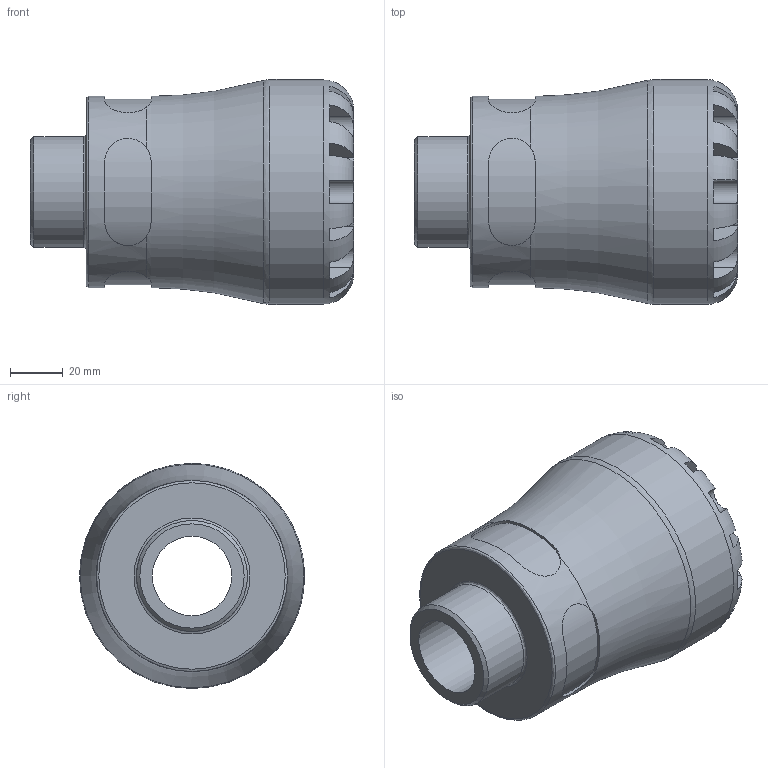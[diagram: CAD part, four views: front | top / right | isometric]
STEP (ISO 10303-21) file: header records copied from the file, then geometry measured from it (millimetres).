
FILE_DESCRIPTION(/* description */ ('PLASSON MALE ADAPTOR 50X1.1/4" SERIES 1'),/* implementation_level */ '2;1');
FILE_NAME(/* name */ 'C:\Dropbox\KIMPROJECTS-Inventor\99-16-3568-Processing\S1\1002\100200050013_190200050013.ipt.stp',/* time_stamp */ '2017-07-27T14:39:33+03:00',/* author */ ('KIM'),/* organization */ (''),/* preprocessor_version */ 'ST-DEVELOPER v15.6',/* originating_system */ 'Autodesk Inventor 2015',/* authorisation */ '');
FILE_SCHEMA (('AUTOMOTIVE_DESIGN { 1 0 10303 214 3 1 1 }'));
Length unit declared in the file: millimetre
Products named in the file (1): 100200050013_190200050013
Bounding box: 122 x 85 x 85 mm (x, y, z)
Volume: 316839.5 mm3; surface area: 53672.2 mm2
Topology: 1 solids, 1 shells, 100 faces, 257 edges, 161 vertices
Faces by surface type: plane 60, cylinder 33, torus 5, cone 2
Full cylindrical faces by diameter (mm): 30 x1, 41.91 x1, 50 x1, 72.25 x1, 85 x1
Entity records: 3812 total; most frequent: CARTESIAN_POINT 1493, ORIENTED_EDGE 484, DIRECTION 462, EDGE_CURVE 242, AXIS2_PLACEMENT_3D 191, VERTEX_POINT 158, EDGE_LOOP 116, FACE_OUTER_BOUND 100
